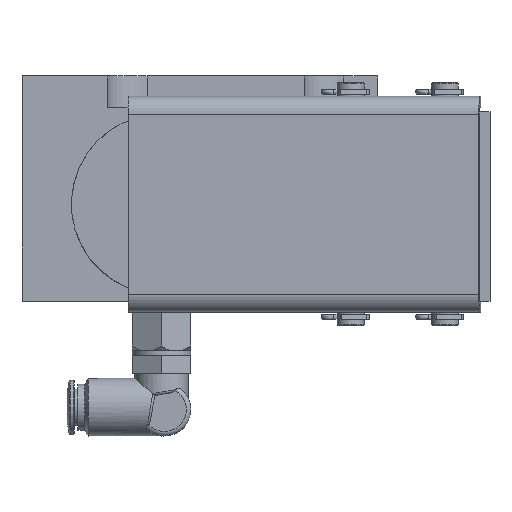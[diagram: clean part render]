
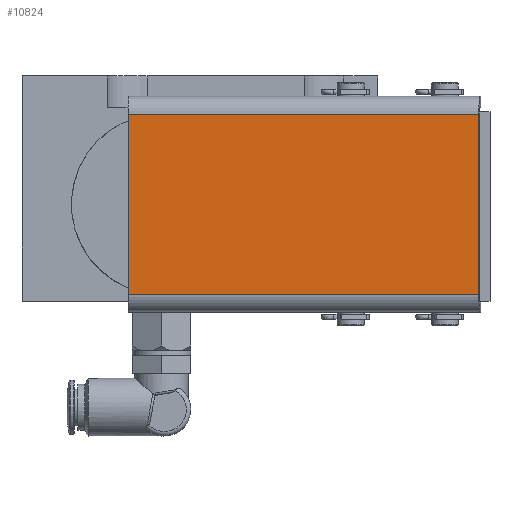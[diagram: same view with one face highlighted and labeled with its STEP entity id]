
A CAD part, left-side view. The second image highlights one B-rep face of the part: STEP entity #10824.
In plain terms, the highlighted planar face has unit normal (-0.999, 0.036, 0).
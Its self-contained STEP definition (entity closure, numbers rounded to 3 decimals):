
#999=LINE('',#20744,#1691);
#1000=LINE('',#20747,#1692);
#1001=LINE('',#20749,#1693);
#1002=LINE('',#20750,#1694);
#1691=VECTOR('',#14020,10.);
#1692=VECTOR('',#14023,10.);
#1693=VECTOR('',#14024,10.);
#1694=VECTOR('',#14025,10.);
#2128=PLANE('',#11778);
#2534=FACE_OUTER_BOUND('',#3142,.T.);
#3142=EDGE_LOOP('',(#8931,#8932,#8933,#8934));
#5023=VERTEX_POINT('',#20740);
#5024=VERTEX_POINT('',#20742);
#5025=VERTEX_POINT('',#20746);
#5026=VERTEX_POINT('',#20748);
#6433=EDGE_CURVE('',#5024,#5023,#999,.T.);
#6434=EDGE_CURVE('',#5025,#5023,#1000,.T.);
#6435=EDGE_CURVE('',#5024,#5026,#1001,.T.);
#6436=EDGE_CURVE('',#5026,#5025,#1002,.T.);
#8931=ORIENTED_EDGE('',*,*,#6434,.T.);
#8932=ORIENTED_EDGE('',*,*,#6433,.F.);
#8933=ORIENTED_EDGE('',*,*,#6435,.T.);
#8934=ORIENTED_EDGE('',*,*,#6436,.T.);
#10824=ADVANCED_FACE('',(#2534),#2128,.T.);
#11778=AXIS2_PLACEMENT_3D('',#20745,#14021,#14022);
#14020=DIRECTION('',(0.036,0.999,0.));
#14021=DIRECTION('center_axis',(-0.999,0.036,0.));
#14022=DIRECTION('ref_axis',(-0.036,-0.999,0.));
#14023=DIRECTION('',(0.,0.,-1.));
#14024=DIRECTION('',(0.,0.,1.));
#14025=DIRECTION('',(0.036,0.999,0.));
#20740=CARTESIAN_POINT('',(-31.242,55.433,-23.5));
#20742=CARTESIAN_POINT('',(-34.027,-22.517,-23.5));
#20744=CARTESIAN_POINT('',(-34.027,-22.517,-23.5));
#20745=CARTESIAN_POINT('Origin',(-34.027,-22.517,16.5));
#20746=CARTESIAN_POINT('',(-31.242,55.433,16.5));
#20747=CARTESIAN_POINT('',(-31.242,55.433,-23.5));
#20748=CARTESIAN_POINT('',(-34.027,-22.517,16.5));
#20749=CARTESIAN_POINT('',(-34.027,-22.517,-23.5));
#20750=CARTESIAN_POINT('',(-34.027,-22.517,16.5));
